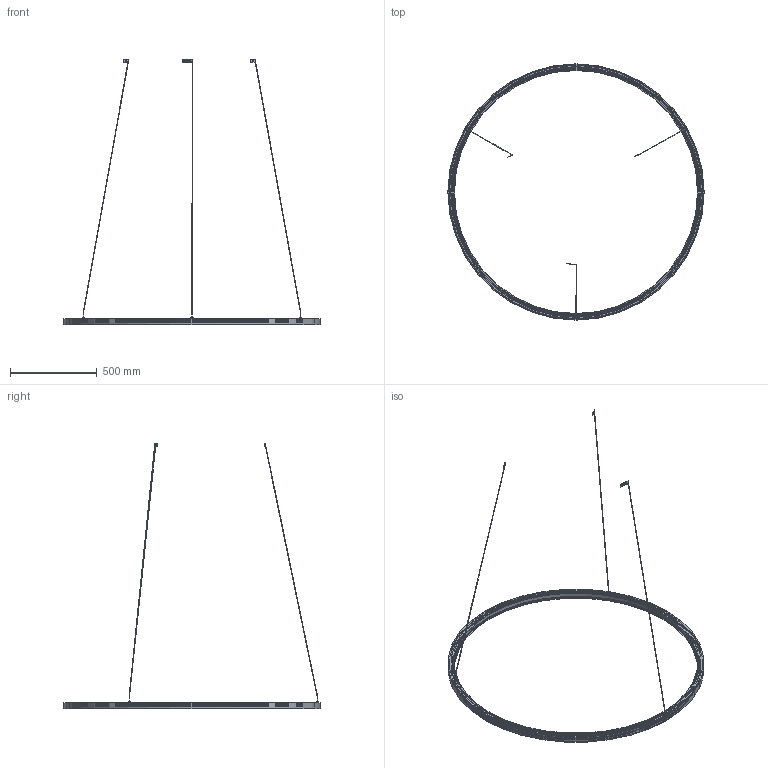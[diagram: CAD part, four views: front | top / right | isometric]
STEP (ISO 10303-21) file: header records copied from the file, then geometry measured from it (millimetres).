
FILE_DESCRIPTION(/* description */ ('Unknown'),/* implementation_level */ '2;1');
FILE_NAME(/* name */ 'TOUR PI 58.1',/* time_stamp */ '2023-01-24T05:50:48-05:00',/* author */ ('Unknown'),/* organization */ ('Unknown'),/* preprocessor_version */ 'ST-DEVELOPER v18.1',/* originating_system */ 'Solid Edge',/* authorisation */ 'Unknown');
FILE_SCHEMA (('AUTOMOTIVE_DESIGN {1 0 10303 214 3 1 1}'));
Length unit declared in the file: millimetre
Products named in the file (1): TOUR PI 58.1
Bounding box: 1475 x 1475 x 1531 mm (x, y, z)
Volume: 1930785.6 mm3; surface area: 1693458.9 mm2
Topology: 4 solids, 4 shells, 334 faces, 762 edges, 497 vertices
Faces by surface type: plane 167, cylinder 73, cone 43, torus 39, bspline 12
Full cylindrical faces by diameter (mm): 2.8 x6, 3 x3, 4.134 x3, 12.4 x3, 1399 x2, 1409 x2, 1412 x2, 1420 x1, 1422 x1, 1426.2 x2, 1440.6 x1, 1443.6 x1, 1458 x4, 1459.1 x1, 1461 x4, 1468 x3, 1475 x1
Entity records: 11888 total; most frequent: CARTESIAN_POINT 2693, DIRECTION 1281, ORIENTED_EDGE 1228, EDGE_CURVE 614, AXIS2_PLACEMENT_3D 564, FACE_BOUND 529, EDGE_LOOP 526, VERTEX_POINT 469
